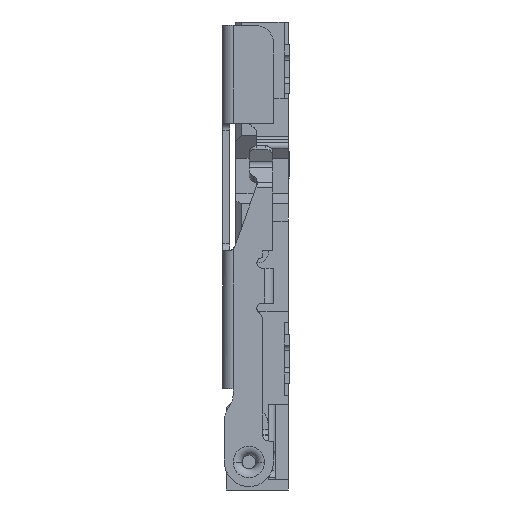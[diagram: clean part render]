
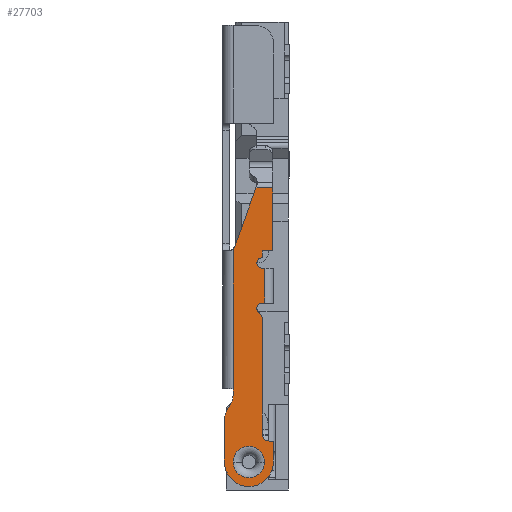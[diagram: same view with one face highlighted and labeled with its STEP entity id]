
A CAD part, left-side view. The second image highlights one B-rep face of the part: STEP entity #27703.
In plain terms, the highlighted planar face has unit normal (-1, 0, 0).
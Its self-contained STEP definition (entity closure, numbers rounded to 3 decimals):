
#7487=DIRECTION('',(0.,0.,-1.));
#7488=VECTOR('',#7487,4.007);
#7489=CARTESIAN_POINT('',(35.75,1.4,-6.493));
#7490=LINE('',#7489,#7488);
#7979=DIRECTION('',(0.,0.,1.));
#7980=VECTOR('',#7979,1.799);
#7981=CARTESIAN_POINT('',(35.75,0.27,-6.55));
#7982=LINE('',#7981,#7980);
#8065=DIRECTION('',(0.,0.,1.));
#8066=VECTOR('',#8065,0.2);
#8067=CARTESIAN_POINT('',(35.75,0.57,-6.75));
#8068=LINE('',#8067,#8066);
#8077=CARTESIAN_POINT('',(35.75,1.54,-6.35));
#8078=DIRECTION('',(-1.,0.,0.));
#8079=DIRECTION('',(0.,-0.7,-0.714));
#8080=AXIS2_PLACEMENT_3D('',#8077,#8078,#8079);
#8082=DIRECTION('',(0.,-0.342,0.94));
#8083=VECTOR('',#8082,1.775);
#8084=CARTESIAN_POINT('',(35.75,1.352,-6.418));
#8085=LINE('',#8084,#8083);
#8086=DIRECTION('',(0.,-1.,0.));
#8087=VECTOR('',#8086,0.475);
#8088=CARTESIAN_POINT('',(35.75,0.745,
-4.751));
#8089=LINE('',#8088,#8087);
#8090=DIRECTION('',(0.,1.,0.));
#8091=VECTOR('',#8090,0.3);
#8092=CARTESIAN_POINT('',(35.75,0.27,-6.55));
#8093=LINE('',#8092,#8091);
#8094=CARTESIAN_POINT('',(35.75,0.57,-6.9));
#8095=DIRECTION('',(-1.,0.,0.));
#8096=DIRECTION('',(0.,0.,1.));
#8097=AXIS2_PLACEMENT_3D('',#8094,#8095,#8096);
#8099=DIRECTION('',(0.,1.,0.));
#8100=VECTOR('',#8099,0.07);
#8101=CARTESIAN_POINT('',(35.75,0.5,-8.05));
#8102=LINE('',#8101,#8100);
#8103=CARTESIAN_POINT('',(35.75,0.57,-8.2));
#8104=DIRECTION('',(-1.,0.,0.));
#8105=DIRECTION('',(0.,0.,1.));
#8106=AXIS2_PLACEMENT_3D('',#8103,#8104,#8105);
#8108=CARTESIAN_POINT('',(35.75,0.77,-8.487));
#8109=DIRECTION('',(1.,0.,0.));
#8110=DIRECTION('',(0.,-0.571,0.821));
#8111=AXIS2_PLACEMENT_3D('',#8108,#8109,#8110);
#8113=CARTESIAN_POINT('',(35.75,0.37,-11.8));
#8114=DIRECTION('',(-1.,0.,0.));
#8115=DIRECTION('',(0.,1.,0.));
#8116=AXIS2_PLACEMENT_3D('',#8113,#8114,#8115);
#8118=CARTESIAN_POINT('',(35.75,0.95,-12.6));
#8119=DIRECTION('',(1.,0.,0.));
#8120=DIRECTION('',(0.,-1.,0.));
#8121=AXIS2_PLACEMENT_3D('',#8118,#8119,#8120);
#8123=CARTESIAN_POINT('',(35.75,1.15,-11.371));
#8124=DIRECTION('',(1.,0.,0.));
#8125=DIRECTION('',(0.,1.,0.));
#8126=AXIS2_PLACEMENT_3D('',#8123,#8124,#8125);
#8128=DIRECTION('',(0.,-0.5,0.866));
#8129=VECTOR('',#8128,0.232);
#8130=CARTESIAN_POINT('',(35.75,1.583,-11.121));
#8131=LINE('',#8130,#8129);
#8132=CARTESIAN_POINT('',(35.75,1.9,-10.67));
#8133=DIRECTION('',(-1.,0.,0.));
#8134=DIRECTION('',(0.,-0.866,-0.5));
#8135=AXIS2_PLACEMENT_3D('',#8132,#8133,#8134);
#8137=CARTESIAN_POINT('',(35.75,0.95,-12.6));
#8138=DIRECTION('',(-1.,0.,0.));
#8139=DIRECTION('',(0.,1.,0.));
#8140=AXIS2_PLACEMENT_3D('',#8137,#8138,#8139);
#8142=CARTESIAN_POINT('',(35.75,0.95,-12.6));
#8143=DIRECTION('',(-1.,0.,0.));
#8144=DIRECTION('',(0.,1.,-0.013));
#8145=AXIS2_PLACEMENT_3D('',#8142,#8143,#8144);
#8147=CARTESIAN_POINT('',(35.75,0.95,-12.6));
#8148=DIRECTION('',(-1.,0.,0.));
#8149=DIRECTION('',(0.,-1.,0.));
#8150=AXIS2_PLACEMENT_3D('',#8147,#8148,#8149);
#8152=CARTESIAN_POINT('',(35.75,0.95,-12.6));
#8153=DIRECTION('',(-1.,0.,0.));
#8154=DIRECTION('',(0.,-1.,0.013));
#8155=AXIS2_PLACEMENT_3D('',#8152,#8153,#8154);
#8165=CARTESIAN_POINT('',(35.75,1.4,-6.493));
#8183=CARTESIAN_POINT('',(35.75,0.745,
-4.751));
#8204=DIRECTION('',(0.,1.,0.));
#8205=VECTOR('',#8204,0.07);
#8206=CARTESIAN_POINT('',(35.75,0.5,-7.05));
#8207=LINE('',#8206,#8205);
#8286=DIRECTION('',(0.,0.,1.));
#8287=VECTOR('',#8286,3.313);
#8288=CARTESIAN_POINT('',(35.75,0.57,-11.8));
#8289=LINE('',#8288,#8287);
#8298=DIRECTION('',(0.,1.,0.));
#8299=VECTOR('',#8298,0.12);
#8300=CARTESIAN_POINT('',(35.75,0.25,-12.));
#8301=LINE('',#8300,#8299);
#8306=DIRECTION('',(0.,0.,1.));
#8307=VECTOR('',#8306,0.6);
#8308=CARTESIAN_POINT('',(35.75,0.25,-12.6));
#8309=LINE('',#8308,#8307);
#8318=DIRECTION('',(0.,0.,-1.));
#8319=VECTOR('',#8318,1.229);
#8320=CARTESIAN_POINT('',(35.75,1.65,-11.371));
#8321=LINE('',#8320,#8319);
#8338=DIRECTION('',(0.,0.,-1.));
#8339=VECTOR('',#8338,0.17);
#8340=CARTESIAN_POINT('',(35.75,1.4,-10.5));
#8341=LINE('',#8340,#8339);
#8346=DIRECTION('',(0.,0.,1.));
#8347=VECTOR('',#8346,1.);
#8348=CARTESIAN_POINT('',(35.75,0.5,-8.05));
#8349=LINE('',#8348,#8347);
#13422=VERTEX_POINT('',#8183);
#13423=CARTESIAN_POINT('',(35.75,0.27,-4.751));
#13424=VERTEX_POINT('',#13423);
#13429=CARTESIAN_POINT('',(35.75,0.27,-6.55));
#13430=VERTEX_POINT('',#13429);
#14381=CARTESIAN_POINT('',(35.75,1.4,-10.5));
#14382=VERTEX_POINT('',#14381);
#14391=VERTEX_POINT('',#8165);
#14504=CARTESIAN_POINT('',(35.75,1.352,
-6.418));
#14505=VERTEX_POINT('',#14504);
#14506=CARTESIAN_POINT('',(35.75,0.57,-6.55));
#14507=VERTEX_POINT('',#14506);
#14508=CARTESIAN_POINT('',(35.75,0.57,-6.75));
#14509=VERTEX_POINT('',#14508);
#14510=CARTESIAN_POINT('',(35.75,0.57,-7.05));
#14511=VERTEX_POINT('',#14510);
#14512=CARTESIAN_POINT('',(35.75,0.5,-7.05));
#14513=VERTEX_POINT('',#14512);
#14514=CARTESIAN_POINT('',(35.75,0.5,-8.05));
#14515=VERTEX_POINT('',#14514);
#14516=CARTESIAN_POINT('',(35.75,0.57,-8.05));
#14517=VERTEX_POINT('',#14516);
#14518=CARTESIAN_POINT('',(35.75,0.656,-8.323));
#14519=VERTEX_POINT('',#14518);
#14520=CARTESIAN_POINT('',(35.75,0.57,-8.487));
#14521=VERTEX_POINT('',#14520);
#14522=CARTESIAN_POINT('',(35.75,0.57,-11.8));
#14523=VERTEX_POINT('',#14522);
#14524=CARTESIAN_POINT('',(35.75,0.37,-12.));
#14525=VERTEX_POINT('',#14524);
#14526=CARTESIAN_POINT('',(35.75,0.25,-12.));
#14527=VERTEX_POINT('',#14526);
#14528=CARTESIAN_POINT('',(35.75,0.25,-12.6));
#14529=VERTEX_POINT('',#14528);
#14530=CARTESIAN_POINT('',(35.75,1.65,-12.6));
#14531=VERTEX_POINT('',#14530);
#14532=CARTESIAN_POINT('',(35.75,1.65,-11.371));
#14533=VERTEX_POINT('',#14532);
#14534=CARTESIAN_POINT('',(35.75,1.583,-11.121));
#14535=VERTEX_POINT('',#14534);
#14536=CARTESIAN_POINT('',(35.75,1.467,-10.92));
#14537=VERTEX_POINT('',#14536);
#14538=CARTESIAN_POINT('',(35.75,1.4,-10.67));
#14539=VERTEX_POINT('',#14538);
#14540=CARTESIAN_POINT('',(35.75,1.4,-12.606));
#14541=CARTESIAN_POINT('',(35.75,0.5,-12.6));
#14542=VERTEX_POINT('',#14540);
#14543=VERTEX_POINT('',#14541);
#14544=CARTESIAN_POINT('',(35.75,1.4,-12.6));
#14545=VERTEX_POINT('',#14544);
#14546=CARTESIAN_POINT('',(35.75,0.5,-12.594));
#14547=VERTEX_POINT('',#14546);
#27645=CARTESIAN_POINT('',(35.75,1.4,-10.5));
#27646=DIRECTION('',(-1.,0.,0.));
#27647=DIRECTION('',(0.,-1.,0.));
#27648=AXIS2_PLACEMENT_3D('',#27645,#27646,#27647);
#27649=PLANE('',#27648);
#27650=ORIENTED_EDGE('',*,*,#26822,.F.);
#27652=ORIENTED_EDGE('',*,*,#27651,.T.);
#27654=ORIENTED_EDGE('',*,*,#27653,.T.);
#27656=ORIENTED_EDGE('',*,*,#27655,.T.);
#27657=ORIENTED_EDGE('',*,*,#27528,.F.);
#27658=ORIENTED_EDGE('',*,*,#27611,.T.);
#27659=ORIENTED_EDGE('',*,*,#27626,.F.);
#27660=ORIENTED_EDGE('',*,*,#27636,.T.);
#27662=ORIENTED_EDGE('',*,*,#27661,.F.);
#27664=ORIENTED_EDGE('',*,*,#27663,.F.);
#27666=ORIENTED_EDGE('',*,*,#27665,.T.);
#27668=ORIENTED_EDGE('',*,*,#27667,.T.);
#27670=ORIENTED_EDGE('',*,*,#27669,.T.);
#27672=ORIENTED_EDGE('',*,*,#27671,.F.);
#27674=ORIENTED_EDGE('',*,*,#27673,.T.);
#27676=ORIENTED_EDGE('',*,*,#27675,.F.);
#27678=ORIENTED_EDGE('',*,*,#27677,.F.);
#27680=ORIENTED_EDGE('',*,*,#27679,.T.);
#27682=ORIENTED_EDGE('',*,*,#27681,.F.);
#27684=ORIENTED_EDGE('',*,*,#27683,.T.);
#27686=ORIENTED_EDGE('',*,*,#27685,.T.);
#27688=ORIENTED_EDGE('',*,*,#27687,.T.);
#27690=ORIENTED_EDGE('',*,*,#27689,.F.);
#27691=EDGE_LOOP('',(#27650,#27652,#27654,#27656,#27657,#27658,#27659,#27660,
#27662,#27664,#27666,#27668,#27670,#27672,#27674,#27676,#27678,#27680,#27682,
#27684,#27686,#27688,#27690));
#27692=FACE_OUTER_BOUND('',#27691,.F.);
#27694=ORIENTED_EDGE('',*,*,#27693,.T.);
#27696=ORIENTED_EDGE('',*,*,#27695,.T.);
#27698=ORIENTED_EDGE('',*,*,#27697,.T.);
#27700=ORIENTED_EDGE('',*,*,#27699,.T.);
#27701=EDGE_LOOP('',(#27694,#27696,#27698,#27700));
#27702=FACE_BOUND('',#27701,.F.);
#8081=CIRCLE('',#8080,0.2);
#8098=CIRCLE('',#8097,0.15);
#8107=CIRCLE('',#8106,0.15);
#8112=CIRCLE('',#8111,0.2);
#8117=CIRCLE('',#8116,0.2);
#8122=CIRCLE('',#8121,0.7);
#8127=CIRCLE('',#8126,0.5);
#8136=CIRCLE('',#8135,0.5);
#8141=CIRCLE('',#8140,0.45);
#8146=CIRCLE('',#8145,0.45);
#8151=CIRCLE('',#8150,0.45);
#8156=CIRCLE('',#8155,0.45);
#26822=EDGE_CURVE('',#14391,#14382,#7490,.T.);
#27528=EDGE_CURVE('',#13430,#13424,#7982,.T.);
#27611=EDGE_CURVE('',#13430,#14507,#8093,.T.);
#27626=EDGE_CURVE('',#14509,#14507,#8068,.T.);
#27636=EDGE_CURVE('',#14509,#14511,#8098,.T.);
#27651=EDGE_CURVE('',#14391,#14505,#8081,.T.);
#27653=EDGE_CURVE('',#14505,#13422,#8085,.T.);
#27655=EDGE_CURVE('',#13422,#13424,#8089,.T.);
#27661=EDGE_CURVE('',#14513,#14511,#8207,.T.);
#27663=EDGE_CURVE('',#14515,#14513,#8349,.T.);
#27665=EDGE_CURVE('',#14515,#14517,#8102,.T.);
#27667=EDGE_CURVE('',#14517,#14519,#8107,.T.);
#27669=EDGE_CURVE('',#14519,#14521,#8112,.T.);
#27671=EDGE_CURVE('',#14523,#14521,#8289,.T.);
#27673=EDGE_CURVE('',#14523,#14525,#8117,.T.);
#27675=EDGE_CURVE('',#14527,#14525,#8301,.T.);
#27677=EDGE_CURVE('',#14529,#14527,#8309,.T.);
#27679=EDGE_CURVE('',#14529,#14531,#8122,.T.);
#27681=EDGE_CURVE('',#14533,#14531,#8321,.T.);
#27683=EDGE_CURVE('',#14533,#14535,#8127,.T.);
#27685=EDGE_CURVE('',#14535,#14537,#8131,.T.);
#27687=EDGE_CURVE('',#14537,#14539,#8136,.T.);
#27689=EDGE_CURVE('',#14382,#14539,#8341,.T.);
#27693=EDGE_CURVE('',#14545,#14542,#8141,.T.);
#27695=EDGE_CURVE('',#14542,#14543,#8146,.T.);
#27697=EDGE_CURVE('',#14543,#14547,#8151,.T.);
#27699=EDGE_CURVE('',#14547,#14545,#8156,.T.);
#27703=ADVANCED_FACE('',(#27692,#27702),#27649,.T.);
